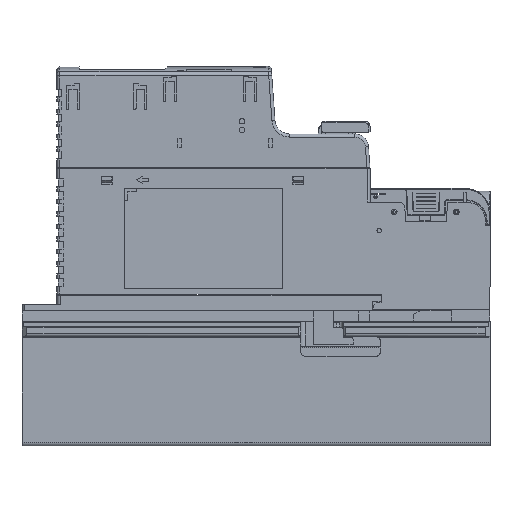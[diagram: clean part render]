
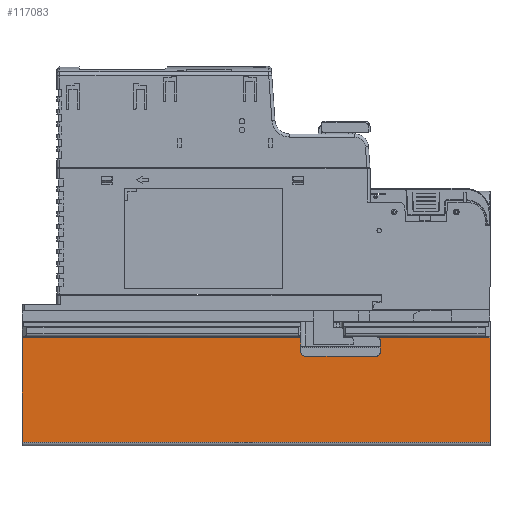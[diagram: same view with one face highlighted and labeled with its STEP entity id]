
A CAD part, left-side view. The second image highlights one B-rep face of the part: STEP entity #117083.
In plain terms, the highlighted planar face has unit normal (-1, 0, 0).
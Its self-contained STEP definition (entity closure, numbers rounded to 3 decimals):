
#609 = EDGE_CURVE ( 'NONE', #84130, #146771, #80248, .T. ) ;
#7627 = DIRECTION ( 'NONE',  ( 1., 0., 0. ) ) ;
#11860 = CARTESIAN_POINT ( 'NONE',  ( -30., -20., -14. ) ) ;
#12678 = EDGE_CURVE ( 'NONE', #36268, #73694, #197579, .T. ) ;
#16710 = EDGE_CURVE ( 'NONE', #159946, #84130, #127208, .T. ) ;
#24498 = LINE ( 'NONE', #88981, #146994 ) ;
#25907 = CARTESIAN_POINT ( 'NONE',  ( -30., -50., -12. ) ) ;
#29039 = VECTOR ( 'NONE', #165889, 1000. ) ;
#31549 = DIRECTION ( 'NONE',  ( 0., 1., 0. ) ) ;
#34535 = LINE ( 'NONE', #186792, #117524 ) ;
#36268 = VERTEX_POINT ( 'NONE', #178393 ) ;
#39187 = EDGE_CURVE ( 'NONE', #117571, #87094, #24498, .T. ) ;
#39897 = FACE_OUTER_BOUND ( 'NONE', #165300, .T. ) ;
#41908 = CARTESIAN_POINT ( 'NONE',  ( -30., -18., -12. ) ) ;
#45513 = AXIS2_PLACEMENT_3D ( 'NONE', #189175, #7627, #145783 ) ;
#46278 = CARTESIAN_POINT ( 'NONE',  ( -30., -50., -6.5 ) ) ;
#49313 = ORIENTED_EDGE ( 'NONE', *, *, #609, .T. ) ;
#54350 = EDGE_CURVE ( 'NONE', #87094, #36268, #173226, .T. ) ;
#59002 = LINE ( 'NONE', #72147, #29039 ) ;
#61786 = ORIENTED_EDGE ( 'NONE', *, *, #39187, .T. ) ;
#68411 = VECTOR ( 'NONE', #138514, 1000. ) ;
#72147 = CARTESIAN_POINT ( 'NONE',  ( -30., -18., -6. ) ) ;
#73694 = VERTEX_POINT ( 'NONE', #138566 ) ;
#79558 = CARTESIAN_POINT ( 'NONE',  ( -30., -94., -48.5 ) ) ;
#79668 = LINE ( 'NONE', #141164, #189992 ) ;
#80248 = CIRCLE ( 'NONE', #119006, 2. ) ;
#80897 = DIRECTION ( 'NONE',  ( 0., 0., -1. ) ) ;
#82307 = CIRCLE ( 'NONE', #111274, 2. ) ;
#83475 = CARTESIAN_POINT ( 'NONE',  ( -30., -48., -14. ) ) ;
#83910 = CARTESIAN_POINT ( 'NONE',  ( -30., -50., -8. ) ) ;
#84130 = VERTEX_POINT ( 'NONE', #11860 ) ;
#87094 = VERTEX_POINT ( 'NONE', #79558 ) ;
#88981 = CARTESIAN_POINT ( 'NONE',  ( -30., 94., -48.5 ) ) ;
#89375 = EDGE_CURVE ( 'NONE', #173566, #159946, #82307, .T. ) ;
#89748 = DIRECTION ( 'NONE',  ( 0., 1., 0. ) ) ;
#89829 = ORIENTED_EDGE ( 'NONE', *, *, #89375, .T. ) ;
#97073 = CARTESIAN_POINT ( 'NONE',  ( -30., 94., -6.5 ) ) ;
#97274 = EDGE_CURVE ( 'NONE', #146771, #148792, #59002, .T. ) ;
#98102 = ORIENTED_EDGE ( 'NONE', *, *, #158928, .T. ) ;
#102904 = DIRECTION ( 'NONE',  ( 0., 1., 0. ) ) ;
#103768 = ORIENTED_EDGE ( 'NONE', *, *, #97274, .T. ) ;
#108451 = DIRECTION ( 'NONE',  ( 1., 0., 0. ) ) ;
#111274 = AXIS2_PLACEMENT_3D ( 'NONE', #161495, #146353, #128284 ) ;
#111776 = DIRECTION ( 'NONE',  ( 0., 0., 1. ) ) ;
#112234 = EDGE_CURVE ( 'NONE', #173566, #159023, #137530, .T. ) ;
#115920 = DIRECTION ( 'NONE',  ( 0., 0., 1. ) ) ;
#117083 = ADVANCED_FACE ( 'NONE', ( #39897 ), #128715, .F. ) ;
#117248 = DIRECTION ( 'NONE',  ( 0., -1., 0. ) ) ;
#117524 = VECTOR ( 'NONE', #31549, 1000. ) ;
#117571 = VERTEX_POINT ( 'NONE', #172330 ) ;
#119006 = AXIS2_PLACEMENT_3D ( 'NONE', #185025, #108451, #167957 ) ;
#126491 = AXIS2_PLACEMENT_3D ( 'NONE', #128294, #190739, #80897 ) ;
#127208 = LINE ( 'NONE', #173557, #148742 ) ;
#128032 = CARTESIAN_POINT ( 'NONE',  ( -30., -18., -6.5 ) ) ;
#128121 = CARTESIAN_POINT ( 'NONE',  ( -30., -50., -14. ) ) ;
#128284 = DIRECTION ( 'NONE',  ( 0., 0., -1. ) ) ;
#128294 = CARTESIAN_POINT ( 'NONE',  ( -30., -48., -8. ) ) ;
#128715 = PLANE ( 'NONE',  #45513 ) ;
#130473 = ORIENTED_EDGE ( 'NONE', *, *, #16710, .T. ) ;
#137530 = LINE ( 'NONE', #128121, #68411 ) ;
#138514 = DIRECTION ( 'NONE',  ( 0., 0., 1. ) ) ;
#138566 = CARTESIAN_POINT ( 'NONE',  ( -30., -49.323, -6.5 ) ) ;
#140990 = CARTESIAN_POINT ( 'NONE',  ( -30., -94., -6. ) ) ;
#141164 = CARTESIAN_POINT ( 'NONE',  ( -30., 94., -6. ) ) ;
#145783 = DIRECTION ( 'NONE',  ( 0., 0., -1. ) ) ;
#145840 = ORIENTED_EDGE ( 'NONE', *, *, #183372, .F. ) ;
#146353 = DIRECTION ( 'NONE',  ( 1., 0., 0. ) ) ;
#146771 = VERTEX_POINT ( 'NONE', #41908 ) ;
#146994 = VECTOR ( 'NONE', #117248, 1000. ) ;
#148742 = VECTOR ( 'NONE', #102904, 1000. ) ;
#148792 = VERTEX_POINT ( 'NONE', #128032 ) ;
#149075 = CIRCLE ( 'NONE', #126491, 2. ) ;
#158928 = EDGE_CURVE ( 'NONE', #148792, #163915, #34535, .T. ) ;
#159023 = VERTEX_POINT ( 'NONE', #83910 ) ;
#159946 = VERTEX_POINT ( 'NONE', #83475 ) ;
#161495 = CARTESIAN_POINT ( 'NONE',  ( -30., -48., -12. ) ) ;
#163915 = VERTEX_POINT ( 'NONE', #97073 ) ;
#165300 = EDGE_LOOP ( 'NONE', ( #145840, #61786, #172331, #190512, #194412, #196588, #89829, #130473, #49313, #103768, #98102 ) ) ;
#165889 = DIRECTION ( 'NONE',  ( 0., 0., 1. ) ) ;
#167957 = DIRECTION ( 'NONE',  ( 0., 0., -1. ) ) ;
#172330 = CARTESIAN_POINT ( 'NONE',  ( -30., 94., -48.5 ) ) ;
#172331 = ORIENTED_EDGE ( 'NONE', *, *, #54350, .T. ) ;
#173226 = LINE ( 'NONE', #140990, #191858 ) ;
#173557 = CARTESIAN_POINT ( 'NONE',  ( -30., 94., -14. ) ) ;
#173566 = VERTEX_POINT ( 'NONE', #25907 ) ;
#178393 = CARTESIAN_POINT ( 'NONE',  ( -30., -94., -6.5 ) ) ;
#178585 = VECTOR ( 'NONE', #89748, 1000. ) ;
#183372 = EDGE_CURVE ( 'NONE', #117571, #163915, #79668, .T. ) ;
#185025 = CARTESIAN_POINT ( 'NONE',  ( -30., -20., -12. ) ) ;
#186792 = CARTESIAN_POINT ( 'NONE',  ( -30., 94., -6.5 ) ) ;
#189175 = CARTESIAN_POINT ( 'NONE',  ( -30., 94., -6. ) ) ;
#189381 = EDGE_CURVE ( 'NONE', #73694, #159023, #149075, .T. ) ;
#189992 = VECTOR ( 'NONE', #115920, 1000. ) ;
#190512 = ORIENTED_EDGE ( 'NONE', *, *, #12678, .T. ) ;
#190739 = DIRECTION ( 'NONE',  ( 1., 0., 0. ) ) ;
#191858 = VECTOR ( 'NONE', #111776, 1000. ) ;
#194412 = ORIENTED_EDGE ( 'NONE', *, *, #189381, .T. ) ;
#196588 = ORIENTED_EDGE ( 'NONE', *, *, #112234, .F. ) ;
#197579 = LINE ( 'NONE', #46278, #178585 ) ;
